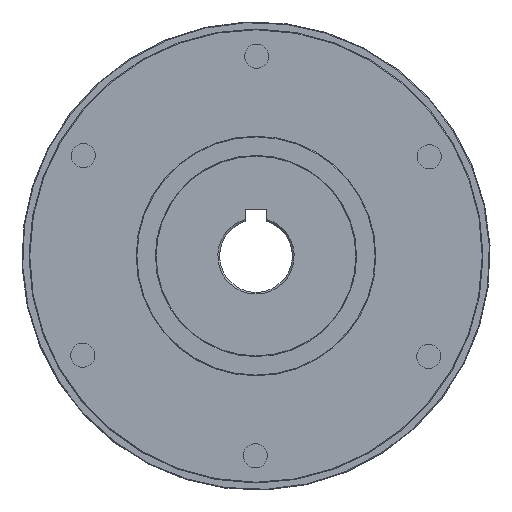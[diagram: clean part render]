
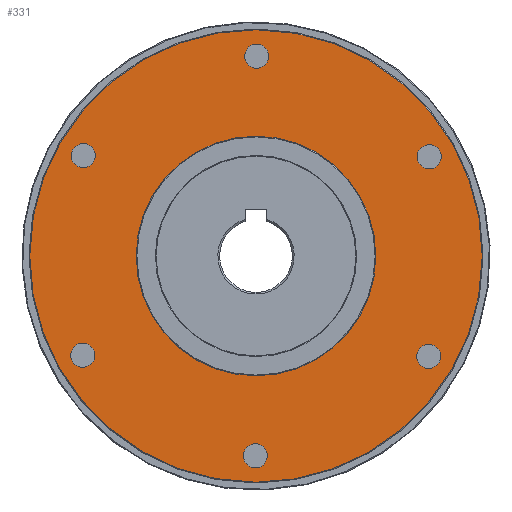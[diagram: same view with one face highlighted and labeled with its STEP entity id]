
A CAD part, left-side view. The second image highlights one B-rep face of the part: STEP entity #331.
In plain terms, the highlighted planar face has unit normal (-1, 0, 0).
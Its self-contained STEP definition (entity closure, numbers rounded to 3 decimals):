
#331 = ADVANCED_FACE( '', ( #678, #679, #680, #681, #682, #683, #684, #685 ), #686, .T. );
#678 = FACE_BOUND( '', #1063, .T. );
#679 = FACE_BOUND( '', #1064, .T. );
#680 = FACE_BOUND( '', #1065, .T. );
#681 = FACE_BOUND( '', #1066, .T. );
#682 = FACE_BOUND( '', #1067, .T. );
#683 = FACE_BOUND( '', #1068, .T. );
#684 = FACE_OUTER_BOUND( '', #1069, .T. );
#685 = FACE_BOUND( '', #1070, .T. );
#686 = PLANE( '', #1071 );
#1063 = EDGE_LOOP( '', ( #1538 ) );
#1064 = EDGE_LOOP( '', ( #1539 ) );
#1065 = EDGE_LOOP( '', ( #1540 ) );
#1066 = EDGE_LOOP( '', ( #1541 ) );
#1067 = EDGE_LOOP( '', ( #1542 ) );
#1068 = EDGE_LOOP( '', ( #1543 ) );
#1069 = EDGE_LOOP( '', ( #1544 ) );
#1070 = EDGE_LOOP( '', ( #1545 ) );
#1071 = AXIS2_PLACEMENT_3D( '', #1546, #1547, #1548 );
#1538 = ORIENTED_EDGE( '', *, *, #1844, .T. );
#1539 = ORIENTED_EDGE( '', *, *, #1792, .T. );
#1540 = ORIENTED_EDGE( '', *, *, #1907, .T. );
#1541 = ORIENTED_EDGE( '', *, *, #1803, .T. );
#1542 = ORIENTED_EDGE( '', *, *, #1908, .T. );
#1543 = ORIENTED_EDGE( '', *, *, #1909, .T. );
#1544 = ORIENTED_EDGE( '', *, *, #1910, .T. );
#1545 = ORIENTED_EDGE( '', *, *, #1882, .F. );
#1546 = CARTESIAN_POINT( '', ( 29.5, 0., 33. ) );
#1547 = DIRECTION( '', ( -1., 0., 0. ) );
#1548 = DIRECTION( '', ( 0., 0., 1. ) );
#1792 = EDGE_CURVE( '', #2000, #2000, #2001, .T. );
#1803 = EDGE_CURVE( '', #2018, #2018, #2019, .T. );
#1844 = EDGE_CURVE( '', #2084, #2084, #2085, .T. );
#1882 = EDGE_CURVE( '', #2141, #2141, #2142, .T. );
#1907 = EDGE_CURVE( '', #2177, #2177, #2178, .T. );
#1908 = EDGE_CURVE( '', #2179, #2179, #2180, .T. );
#1909 = EDGE_CURVE( '', #2181, #2181, #2182, .T. );
#1910 = EDGE_CURVE( '', #2183, #2183, #2184, .T. );
#2000 = VERTEX_POINT( '', #2294 );
#2001 = CIRCLE( '', #2295, 3.324 );
#2018 = VERTEX_POINT( '', #2373 );
#2019 = CIRCLE( '', #2374, 3.324 );
#2084 = VERTEX_POINT( '', #2664 );
#2085 = CIRCLE( '', #2665, 3.324 );
#2141 = VERTEX_POINT( '', #2726 );
#2142 = CIRCLE( '', #2727, 33. );
#2177 = VERTEX_POINT( '', #2816 );
#2178 = CIRCLE( '', #2817, 3.324 );
#2179 = VERTEX_POINT( '', #2818 );
#2180 = CIRCLE( '', #2819, 3.324 );
#2181 = VERTEX_POINT( '', #2820 );
#2182 = CIRCLE( '', #2821, 3.324 );
#2183 = VERTEX_POINT( '', #2822 );
#2184 = CIRCLE( '', #2823, 62.3 );
#2294 = CARTESIAN_POINT( '', ( 29.5, 50.51, -29.162 ) );
#2295 = AXIS2_PLACEMENT_3D( '', #2919, #2920, #2921 );
#2373 = CARTESIAN_POINT( '', ( 29.5, -50.51, -29.162 ) );
#2374 = AXIS2_PLACEMENT_3D( '', #2937, #2938, #2939 );
#2664 = CARTESIAN_POINT( '', ( 29.5, 50.51, 29.162 ) );
#2665 = AXIS2_PLACEMENT_3D( '', #3001, #3002, #3003 );
#2726 = CARTESIAN_POINT( '', ( 29.5, 0., 33. ) );
#2727 = AXIS2_PLACEMENT_3D( '', #3060, #3061, #3062 );
#2816 = CARTESIAN_POINT( '', ( 29.5, 0., -58.324 ) );
#2817 = AXIS2_PLACEMENT_3D( '', #3093, #3094, #3095 );
#2818 = CARTESIAN_POINT( '', ( 29.5, -50.51, 29.162 ) );
#2819 = AXIS2_PLACEMENT_3D( '', #3096, #3097, #3098 );
#2820 = CARTESIAN_POINT( '', ( 29.5, 0., 58.324 ) );
#2821 = AXIS2_PLACEMENT_3D( '', #3099, #3100, #3101 );
#2822 = CARTESIAN_POINT( '', ( 29.5, 0., 62.3 ) );
#2823 = AXIS2_PLACEMENT_3D( '', #3102, #3103, #3104 );
#2919 = CARTESIAN_POINT( '', ( 29.5, 47.631, -27.5 ) );
#2920 = DIRECTION( '', ( 1., 0., 0. ) );
#2921 = DIRECTION( '', ( 0., 0.866, -0.5 ) );
#2937 = CARTESIAN_POINT( '', ( 29.5, -47.631, -27.5 ) );
#2938 = DIRECTION( '', ( 1., 0., 0. ) );
#2939 = DIRECTION( '', ( 0., -0.866, -0.5 ) );
#3001 = CARTESIAN_POINT( '', ( 29.5, 47.631, 27.5 ) );
#3002 = DIRECTION( '', ( 1., 0., 0. ) );
#3003 = DIRECTION( '', ( 0., 0.866, 0.5 ) );
#3060 = CARTESIAN_POINT( '', ( 29.5, 0., 0. ) );
#3061 = DIRECTION( '', ( -1., 0., 0. ) );
#3062 = DIRECTION( '', ( 0., 0., 1. ) );
#3093 = CARTESIAN_POINT( '', ( 29.5, 0., -55. ) );
#3094 = DIRECTION( '', ( 1., 0., 0. ) );
#3095 = DIRECTION( '', ( 0., 0., -1. ) );
#3096 = CARTESIAN_POINT( '', ( 29.5, -47.631, 27.5 ) );
#3097 = DIRECTION( '', ( 1., 0., 0. ) );
#3098 = DIRECTION( '', ( 0., -0.866, 0.5 ) );
#3099 = CARTESIAN_POINT( '', ( 29.5, 0., 55. ) );
#3100 = DIRECTION( '', ( 1., 0., 0. ) );
#3101 = DIRECTION( '', ( 0., 0., 1. ) );
#3102 = CARTESIAN_POINT( '', ( 29.5, 0., 0. ) );
#3103 = DIRECTION( '', ( -1., 0., 0. ) );
#3104 = DIRECTION( '', ( 0., 0., 1. ) );
